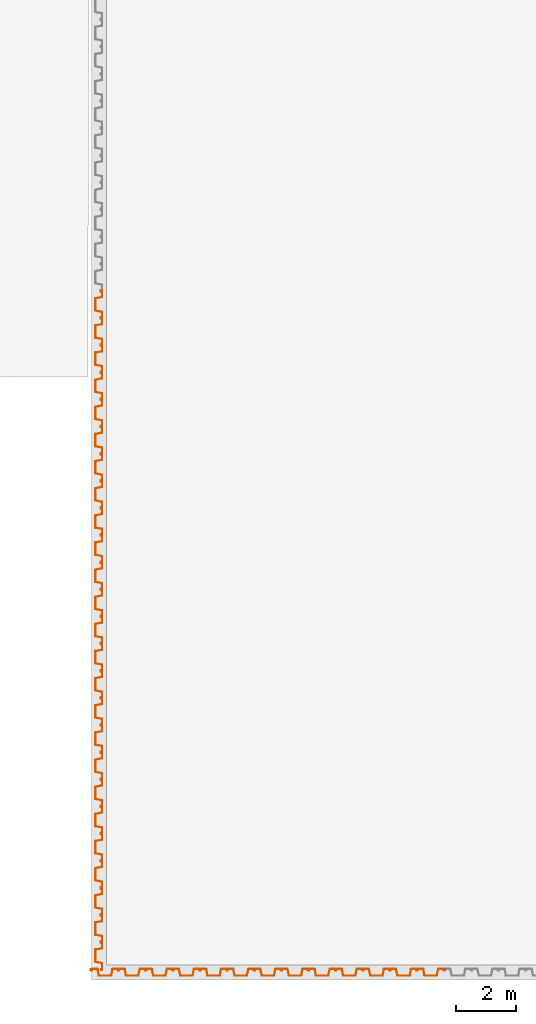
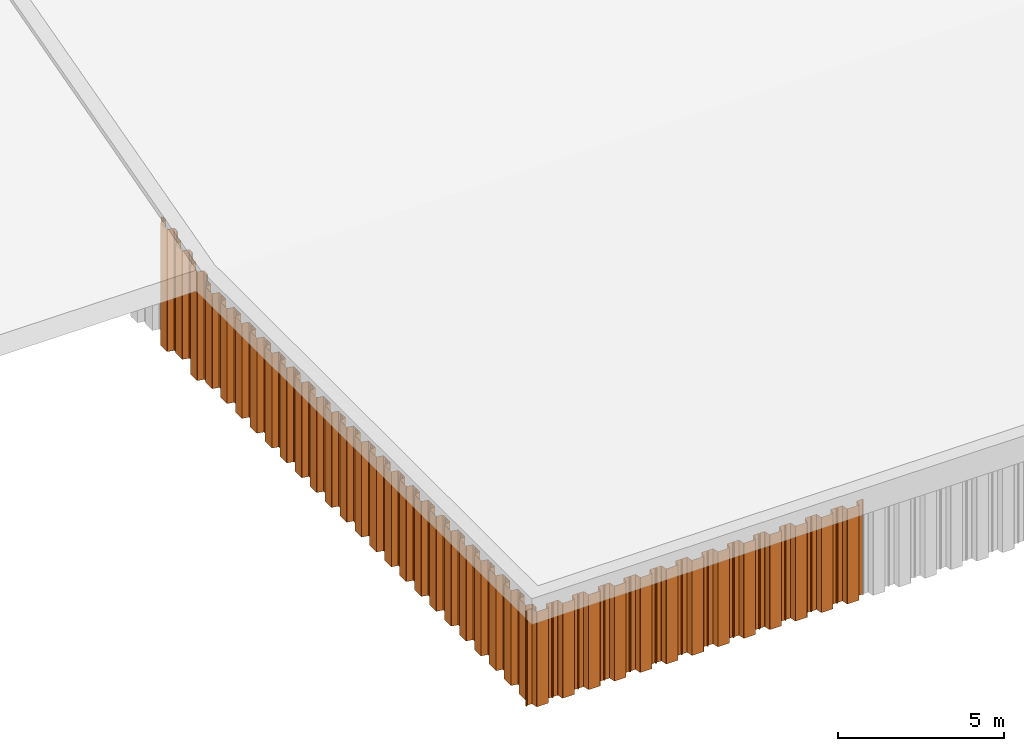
# One storey, part 4 of 32: 38 proxies.
"""IFC2X3 building model written with IfcOpenShell, lengths in millimetres."""

from ifc_helpers import new_model, entity, si_unit, converted_unit, derived_unit, direction, frame, frame_2d, origin, place, context, subcontext, project, spatial, polyline, circle_curve, parameter, trimmed, segment, composite_curve, outline, extrude, source, transform, mapped, type_object, type_shapes, element, save


model = new_model("IFC2X3")

# Units and contexts
model_context = context("Model", 3, precision=0.01, world=origin(), true_north=direction((6.12303176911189e-17, 1.0)))
body_context = subcontext(model_context, "Body", "Model", "MODEL_VIEW")
ifc_project = project(units=[si_unit("LENGTHUNIT", "METRE", prefix="MILLI"), si_unit("AREAUNIT", "SQUARE_METRE"), si_unit("VOLUMEUNIT", "CUBIC_METRE"), converted_unit("PLANEANGLEUNIT", "DEGREE", entity("IfcRatioMeasure", 0.0174532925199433), si_unit("PLANEANGLEUNIT", "RADIAN"), dimensions=[0, 0, 0, 0, 0, 0, 0]), si_unit("MASSUNIT", "GRAM", prefix="KILO"), derived_unit("MASSDENSITYUNIT", [(si_unit("MASSUNIT", "GRAM", prefix="KILO"), 1), (si_unit("LENGTHUNIT", "METRE"), -3)]), si_unit("TIMEUNIT", "SECOND"), si_unit("FREQUENCYUNIT", "HERTZ"), si_unit("THERMODYNAMICTEMPERATUREUNIT", "DEGREE_CELSIUS"), derived_unit("THERMALTRANSMITTANCEUNIT", [(si_unit("MASSUNIT", "GRAM", prefix="KILO"), 1), (si_unit("THERMODYNAMICTEMPERATUREUNIT", "KELVIN"), -1), (si_unit("TIMEUNIT", "SECOND"), -3)]), derived_unit("VOLUMETRICFLOWRATEUNIT", [(si_unit("LENGTHUNIT", "METRE"), 3), (si_unit("TIMEUNIT", "SECOND"), -1)]), si_unit("ELECTRICCURRENTUNIT", "AMPERE"), si_unit("ELECTRICVOLTAGEUNIT", "VOLT"), si_unit("POWERUNIT", "WATT"), si_unit("FORCEUNIT", "NEWTON", prefix="KILO"), si_unit("ILLUMINANCEUNIT", "LUX"), si_unit("LUMINOUSFLUXUNIT", "LUMEN"), si_unit("LUMINOUSINTENSITYUNIT", "CANDELA"), derived_unit("USERDEFINED", [(si_unit("MASSUNIT", "GRAM", prefix="KILO"), -1), (si_unit("LENGTHUNIT", "METRE"), -2), (si_unit("TIMEUNIT", "SECOND"), 3), (si_unit("LUMINOUSFLUXUNIT", "LUMEN"), 1)]), derived_unit("LINEARVELOCITYUNIT", [(si_unit("LENGTHUNIT", "METRE"), 1), (si_unit("TIMEUNIT", "SECOND"), -1)]), si_unit("PRESSUREUNIT", "PASCAL"), derived_unit("USERDEFINED", [(si_unit("LENGTHUNIT", "METRE"), -2), (si_unit("MASSUNIT", "GRAM", prefix="KILO"), 1), (si_unit("TIMEUNIT", "SECOND"), -2)])], contexts=[model_context])

# Site, building, storey
site_placement = place(None, origin())
site = spatial("IfcSite", under=ifc_project, at=site_placement, Name="Default", CompositionType="ELEMENT")
building_placement = place(site_placement, origin())
building = spatial("IfcBuilding", under=site, at=building_placement, CompositionType="ELEMENT")
storey_placement = place(building_placement, origin())
storey = spatial("IfcBuildingStorey", under=building, at=storey_placement, Name="矢板", CompositionType="ELEMENT", Elevation=0.0)

# Proxies
building_element_proxy_type_1 = type_object("IfcBuildingElementProxyType", Name="鋼矢板10H型", PredefinedType="NOTDEFINED")
shared_shape_1 = source(origin(), body_context, "Body", "SweptSolid", [
    extrude(outline(composite_curve([segment(trimmed(circle_curve(frame_2d((85.3662976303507, 306.644432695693), x_axis=(0.422618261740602, 0.906307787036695)), 13.885714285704), [parameter(24.9999999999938)], [parameter(90.0000000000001)], True, "PARAMETER"), True, "CONTINUOUS"), segment(polyline([(72.7815666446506, 312.512789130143), (9.8129512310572, 177.476157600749)]), True, "CONTINUOUS"), segment(trimmed(circle_curve(frame_2d((29.3891994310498, 168.347603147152), x_axis=(0.422618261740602, 0.906307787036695)), 21.6), [parameter(90.0000000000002)], [parameter(168.69006752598)], True, "PARAMETER"), True, "CONTINUOUS"), segment(polyline([(16.598697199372, 150.941769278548), (175.329723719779, 34.2998683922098)]), True, "CONTINUOUS"), segment(trimmed(circle_curve(frame_2d((168.93447260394, 25.596951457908), x_axis=(0.422618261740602, 0.906307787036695)), 10.7999999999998), [parameter(270.0)], [parameter(348.690067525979)], True, "PARAMETER"), False, "CONTINUOUS"), segment(polyline([(178.722596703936, 21.0326742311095), (18.2974003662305, -323.000269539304)]), True, "CONTINUOUS"), segment(trimmed(circle_curve(frame_2d((8.50927626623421, -318.435992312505), x_axis=(0.422618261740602, 0.906307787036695)), 10.8), [parameter(191.30993247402)], [parameter(269.999999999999)], True, "PARAMETER"), False, "CONTINUOUS"), segment(polyline([(5.95324328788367, -328.929166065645), (-185.429973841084, -282.310113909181)]), True, "CONTINUOUS"), segment(trimmed(circle_curve(frame_2d((-190.542039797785, -303.296461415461), x_axis=(0.422618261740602, 0.906307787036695)), 21.6000000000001), [parameter(11.3099324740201)], [parameter(90.0000000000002)], True, "PARAMETER"), True, "CONTINUOUS"), segment(polyline([(-210.118287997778, -294.167906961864), (-290.330886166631, -466.184378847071)]), True, "CONTINUOUS"), segment(trimmed(circle_curve(frame_2d((-270.754637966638, -475.312933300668), x_axis=(0.422618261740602, 0.906307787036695)), 21.6), [parameter(90.0000000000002)], [parameter(269.999999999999)], True, "PARAMETER"), True, "CONTINUOUS"), segment(polyline([(-251.178389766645, -484.441487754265), (-249.065298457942, -479.909948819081)]), True, "CONTINUOUS"), segment(polyline([(-249.065298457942, -479.909948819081), (-258.853422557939, -475.345671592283)]), True, "CONTINUOUS"), segment(polyline([(-258.853422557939, -475.345671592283), (-260.966513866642, -479.877210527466)]), True, "CONTINUOUS"), segment(trimmed(circle_curve(frame_2d((-270.754637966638, -475.312933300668), x_axis=(0.422618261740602, 0.906307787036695)), 10.8), [parameter(90.0000000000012)], [parameter(270.0)], True, "PARAMETER"), False, "CONTINUOUS"), segment(polyline([(-280.542762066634, -470.748656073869), (-200.330163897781, -298.732184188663)]), True, "CONTINUOUS"), segment(trimmed(circle_curve(frame_2d((-190.542039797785, -303.296461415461), x_axis=(0.422618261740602, 0.906307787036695)), 10.8), [parameter(11.3099324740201)], [parameter(89.9999999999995)], True, "PARAMETER"), False, "CONTINUOUS"), segment(polyline([(-187.986006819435, -292.803287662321), (3.39721030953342, -339.422339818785)]), True, "CONTINUOUS"), segment(trimmed(circle_curve(frame_2d((8.50927626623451, -318.435992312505), x_axis=(0.422618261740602, 0.906307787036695)), 21.6), [parameter(191.30993247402)], [parameter(270.0)], True, "PARAMETER"), True, "CONTINUOUS"), segment(polyline([(28.0855244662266, -327.564546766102), (188.510720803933, 16.4683970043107)]), True, "CONTINUOUS"), segment(trimmed(circle_curve(frame_2d((168.93447260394, 25.5969514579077), x_axis=(0.422618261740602, 0.906307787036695)), 21.6), [parameter(270.0)], [parameter(348.69006752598)], True, "PARAMETER"), True, "CONTINUOUS"), segment(polyline([(181.724974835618, 43.0027853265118), (22.9939483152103, 159.644686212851)]), True, "CONTINUOUS"), segment(trimmed(circle_curve(frame_2d((29.3891994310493, 168.347603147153), x_axis=(0.422618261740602, 0.906307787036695)), 10.7999999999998), [parameter(89.9999999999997)], [parameter(168.690067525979)], True, "PARAMETER"), False, "CONTINUOUS"), segment(polyline([(19.6010753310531, 172.911880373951), (82.5696907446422, 307.948511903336)]), True, "CONTINUOUS"), segment(trimmed(circle_curve(frame_2d((85.3662976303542, 306.64443269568), x_axis=(0.422618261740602, 0.906307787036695)), 3.08571428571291), [parameter(25.0000000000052)], [parameter(90.0000000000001)], True, "PARAMETER"), False, "CONTINUOUS"), segment(polyline([(85.3662976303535, 309.730146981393), (122.220231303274, 309.730146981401)]), True, "CONTINUOUS"), segment(trimmed(circle_curve(frame_2d((122.220231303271, 323.615861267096), x_axis=(0.422618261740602, 0.906307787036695)), 13.8857142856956), [parameter(205.000000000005)], [parameter(270.0)], True, "PARAMETER"), True, "CONTINUOUS"), segment(polyline([(134.804962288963, 317.747504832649), (141.079261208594, 331.202782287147)]), True, "CONTINUOUS"), segment(trimmed(circle_curve(frame_2d((121.503013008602, 340.331336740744), x_axis=(0.422618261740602, 0.906307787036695)), 21.6), [parameter(270.0)], [parameter(90.0000000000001)], True, "PARAMETER"), True, "CONTINUOUS"), segment(polyline([(101.926764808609, 349.459891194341), (99.8136734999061, 344.928352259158)]), True, "CONTINUOUS"), segment(polyline([(99.8136734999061, 344.928352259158), (109.601797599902, 340.364075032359)]), True, "CONTINUOUS"), segment(polyline([(109.601797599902, 340.364075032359), (111.714888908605, 344.895613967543)]), True, "CONTINUOUS"), segment(trimmed(circle_curve(frame_2d((121.503013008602, 340.331336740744), x_axis=(0.422618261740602, 0.906307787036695)), 10.8), [parameter(270.0)], [parameter(89.9999999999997)], True, "PARAMETER"), False, "CONTINUOUS"), segment(polyline([(131.291137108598, 335.767059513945), (125.01683818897, 322.311782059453)]), True, "CONTINUOUS"), segment(trimmed(circle_curve(frame_2d((122.220231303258, 323.615861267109), x_axis=(0.422618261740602, 0.906307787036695)), 3.08571428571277), [parameter(204.999999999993)], [parameter(270.0)], True, "PARAMETER"), False, "CONTINUOUS"), segment(polyline([(122.220231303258, 320.530146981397), (85.3662976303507, 320.530146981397)]), True, "CONTINUOUS")], self_intersect=False)), frame((95.205667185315, -48.8888888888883, -3500.0), z_axis=(0.0, 0.0, -1.0), x_axis=(0.4226182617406, 0.906307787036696, 0.0)), (0.0, 0.0, -1.0), 3500.0),
])
type_shapes(building_element_proxy_type_1, [shared_shape_1])
for number, where, z_axis, x_axis in (
    (1, (-128208.0, -33049.0, 5850.0), (0.0, 0.0, 1.0), (0.0, 1.0, 0.0)),
    (2, (-128208.0, -33949.0, 5850.0), (0.0, 0.0, 1.0), (0.0, 1.0, 0.0)),
    (3, (-128208.0, -34849.0, 5850.0), (0.0, 0.0, 1.0), (0.0, 1.0, 0.0)),
    (4, (-128208.0, -35749.0, 5850.0), (0.0, 0.0, 1.0), (0.0, 1.0, 0.0)),
    (5, (-128208.0, -36649.0, 5850.0), (0.0, 0.0, 1.0), (0.0, 1.0, 0.0)),
    (6, (-128208.0, -37549.0, 5850.0), (0.0, 0.0, 1.0), (0.0, 1.0, 0.0)),
    (7, (-128208.0, -38449.0, 5850.0), (0.0, 0.0, 1.0), (0.0, 1.0, 0.0)),
    (8, (-128208.0, -39349.0, 5850.0), (0.0, 0.0, 1.0), (0.0, 1.0, 0.0)),
    (9, (-128208.0, -40249.0, 5850.0), (0.0, 0.0, 1.0), (0.0, 1.0, 0.0)),
    (10, (-128208.0, -41149.0, 5850.0), (0.0, 0.0, 1.0), (0.0, 1.0, 0.0)),
    (11, (-128208.0, -42049.0, 5850.0), (0.0, 0.0, 1.0), (0.0, 1.0, 0.0)),
    (12, (-128208.0, -42949.0, 5850.0), (0.0, 0.0, 1.0), (0.0, 1.0, 0.0)),
    (13, (-128208.0, -43849.0, 5850.0), (0.0, 0.0, 1.0), (0.0, 1.0, 0.0)),
    (14, (-128208.0, -44749.0, 5850.0), (0.0, 0.0, 1.0), (0.0, 1.0, 0.0)),
    (15, (-128208.0, -45649.0, 5850.0), (0.0, 0.0, 1.0), (0.0, 1.0, 0.0)),
    (16, (-128208.0, -46549.0, 5850.0), (0.0, 0.0, 1.0), (0.0, 1.0, 0.0)),
    (17, (-128208.0, -47449.0, 5850.0), (0.0, 0.0, 1.0), (0.0, 1.0, 0.0)),
    (18, (-128208.0, -48349.0, 5850.0), (0.0, 0.0, 1.0), (0.0, 1.0, 0.0)),
    (19, (-128208.0, -49249.0, 5850.0), (0.0, 0.0, 1.0), (0.0, 1.0, 0.0)),
    (20, (-128208.0, -50149.0, 5850.0), (0.0, 0.0, 1.0), (0.0, 1.0, 0.0)),
    (21, (-128208.0, -51049.0, 5850.0), (0.0, 0.0, 1.0), (0.0, 1.0, 0.0)),
    (22, (-128208.0, -51949.0, 5850.0), (0.0, 0.0, 1.0), (0.0, 1.0, 0.0)),
    (23, (-117197.500000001, -52500.0, 5850.0), (0.0, 0.0, 1.0), (-1.0, 0.0, 0.0)),
    (24, (-118097.500000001, -52500.0, 5850.0), (0.0, 0.0, 1.0), (-1.0, 0.0, 0.0)),
    (25, (-118997.500000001, -52500.0, 5850.0), (0.0, 0.0, 1.0), (-1.0, 0.0, 0.0)),
    (26, (-119897.500000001, -52500.0, 5850.0), (0.0, 0.0, 1.0), (-1.0, 0.0, 0.0)),
    (27, (-120797.500000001, -52500.0, 5850.0), (0.0, 0.0, 1.0), (-1.0, 0.0, 0.0)),
    (28, (-121697.500000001, -52500.0, 5850.0), (0.0, 0.0, 1.0), (-1.0, 0.0, 0.0)),
    (29, (-122597.500000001, -52500.0, 5850.0), (0.0, 0.0, 1.0), (-1.0, 0.0, 0.0)),
    (30, (-123497.500000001, -52500.0, 5850.0), (0.0, 0.0, 1.0), (-1.0, 0.0, 0.0)),
    (31, (-124397.500000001, -52500.0, 5850.0), (0.0, 0.0, 1.0), (-1.0, 0.0, 0.0)),
    (32, (-125297.500000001, -52500.0, 5850.0), (0.0, 0.0, 1.0), (-1.0, 0.0, 0.0)),
    (33, (-126197.500000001, -52500.0, 5850.0), (0.0, 0.0, 1.0), (-1.0, 0.0, 0.0)),
    (34, (-127097.500000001, -52500.0, 5850.0), (0.0, 0.0, 1.0), (-1.0, 0.0, 0.0)),
    (35, (-127997.500000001, -52500.0, 5850.0), (0.0, 0.0, 1.0), (-1.0, 0.0, 0.0)),
):
    element("IfcBuildingElementProxy", number, at=place(storey_placement, frame(where, z_axis=z_axis, x_axis=x_axis)), inside=storey, type_object=building_element_proxy_type_1, Name="鋼矢板10H型:鋼矢板10H型", ObjectType="鋼矢板10H型:鋼矢板10H型", context=body_context, shape_type="MappedRepresentation", body=[
        mapped(shared_shape_1, transform((0.0, 0.0, 0.0), scale=1.0)),
    ])
building_element_proxy_type_2 = type_object("IfcBuildingElementProxyType", Name="鋼矢板10H型", PredefinedType="NOTDEFINED")
shared_shape_2 = source(origin(), body_context, "Body", "SweptSolid", [
    extrude(outline(composite_curve([segment(trimmed(circle_curve(frame_2d((85.3662976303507, 306.644432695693), x_axis=(0.422618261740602, 0.906307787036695)), 13.885714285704), [parameter(24.9999999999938)], [parameter(90.0000000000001)], True, "PARAMETER"), True, "CONTINUOUS"), segment(polyline([(72.7815666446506, 312.512789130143), (9.8129512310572, 177.476157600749)]), True, "CONTINUOUS"), segment(trimmed(circle_curve(frame_2d((29.3891994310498, 168.347603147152), x_axis=(0.422618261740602, 0.906307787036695)), 21.6), [parameter(90.0000000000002)], [parameter(168.69006752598)], True, "PARAMETER"), True, "CONTINUOUS"), segment(polyline([(16.598697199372, 150.941769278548), (175.329723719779, 34.2998683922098)]), True, "CONTINUOUS"), segment(trimmed(circle_curve(frame_2d((168.93447260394, 25.596951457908), x_axis=(0.422618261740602, 0.906307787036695)), 10.7999999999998), [parameter(270.0)], [parameter(348.690067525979)], True, "PARAMETER"), False, "CONTINUOUS"), segment(polyline([(178.722596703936, 21.0326742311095), (18.2974003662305, -323.000269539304)]), True, "CONTINUOUS"), segment(trimmed(circle_curve(frame_2d((8.50927626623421, -318.435992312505), x_axis=(0.422618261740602, 0.906307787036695)), 10.8), [parameter(191.30993247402)], [parameter(269.999999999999)], True, "PARAMETER"), False, "CONTINUOUS"), segment(polyline([(5.95324328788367, -328.929166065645), (-185.429973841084, -282.310113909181)]), True, "CONTINUOUS"), segment(trimmed(circle_curve(frame_2d((-190.542039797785, -303.296461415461), x_axis=(0.422618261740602, 0.906307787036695)), 21.6000000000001), [parameter(11.3099324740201)], [parameter(90.0000000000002)], True, "PARAMETER"), True, "CONTINUOUS"), segment(polyline([(-210.118287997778, -294.167906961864), (-290.330886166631, -466.184378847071)]), True, "CONTINUOUS"), segment(trimmed(circle_curve(frame_2d((-270.754637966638, -475.312933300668), x_axis=(0.422618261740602, 0.906307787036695)), 21.6), [parameter(90.0000000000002)], [parameter(269.999999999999)], True, "PARAMETER"), True, "CONTINUOUS"), segment(polyline([(-251.178389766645, -484.441487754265), (-249.065298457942, -479.909948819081)]), True, "CONTINUOUS"), segment(polyline([(-249.065298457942, -479.909948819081), (-258.853422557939, -475.345671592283)]), True, "CONTINUOUS"), segment(polyline([(-258.853422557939, -475.345671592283), (-260.966513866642, -479.877210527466)]), True, "CONTINUOUS"), segment(trimmed(circle_curve(frame_2d((-270.754637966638, -475.312933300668), x_axis=(0.422618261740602, 0.906307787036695)), 10.8), [parameter(90.0000000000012)], [parameter(270.0)], True, "PARAMETER"), False, "CONTINUOUS"), segment(polyline([(-280.542762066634, -470.748656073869), (-200.330163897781, -298.732184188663)]), True, "CONTINUOUS"), segment(trimmed(circle_curve(frame_2d((-190.542039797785, -303.296461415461), x_axis=(0.422618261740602, 0.906307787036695)), 10.8), [parameter(11.3099324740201)], [parameter(89.9999999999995)], True, "PARAMETER"), False, "CONTINUOUS"), segment(polyline([(-187.986006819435, -292.803287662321), (3.39721030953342, -339.422339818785)]), True, "CONTINUOUS"), segment(trimmed(circle_curve(frame_2d((8.50927626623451, -318.435992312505), x_axis=(0.422618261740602, 0.906307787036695)), 21.6), [parameter(191.30993247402)], [parameter(270.0)], True, "PARAMETER"), True, "CONTINUOUS"), segment(polyline([(28.0855244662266, -327.564546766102), (188.510720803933, 16.4683970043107)]), True, "CONTINUOUS"), segment(trimmed(circle_curve(frame_2d((168.93447260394, 25.5969514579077), x_axis=(0.422618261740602, 0.906307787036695)), 21.6), [parameter(270.0)], [parameter(348.69006752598)], True, "PARAMETER"), True, "CONTINUOUS"), segment(polyline([(181.724974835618, 43.0027853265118), (22.9939483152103, 159.644686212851)]), True, "CONTINUOUS"), segment(trimmed(circle_curve(frame_2d((29.3891994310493, 168.347603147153), x_axis=(0.422618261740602, 0.906307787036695)), 10.7999999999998), [parameter(89.9999999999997)], [parameter(168.690067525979)], True, "PARAMETER"), False, "CONTINUOUS"), segment(polyline([(19.6010753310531, 172.911880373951), (82.5696907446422, 307.948511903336)]), True, "CONTINUOUS"), segment(trimmed(circle_curve(frame_2d((85.3662976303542, 306.64443269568), x_axis=(0.422618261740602, 0.906307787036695)), 3.08571428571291), [parameter(25.0000000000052)], [parameter(90.0000000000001)], True, "PARAMETER"), False, "CONTINUOUS"), segment(polyline([(85.3662976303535, 309.730146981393), (122.220231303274, 309.730146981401)]), True, "CONTINUOUS"), segment(trimmed(circle_curve(frame_2d((122.220231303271, 323.615861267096), x_axis=(0.422618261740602, 0.906307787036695)), 13.8857142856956), [parameter(205.000000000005)], [parameter(270.0)], True, "PARAMETER"), True, "CONTINUOUS"), segment(polyline([(134.804962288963, 317.747504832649), (141.079261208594, 331.202782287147)]), True, "CONTINUOUS"), segment(trimmed(circle_curve(frame_2d((121.503013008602, 340.331336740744), x_axis=(0.422618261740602, 0.906307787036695)), 21.6), [parameter(270.0)], [parameter(90.0000000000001)], True, "PARAMETER"), True, "CONTINUOUS"), segment(polyline([(101.926764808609, 349.459891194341), (99.8136734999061, 344.928352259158)]), True, "CONTINUOUS"), segment(polyline([(99.8136734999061, 344.928352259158), (109.601797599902, 340.364075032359)]), True, "CONTINUOUS"), segment(polyline([(109.601797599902, 340.364075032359), (111.714888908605, 344.895613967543)]), True, "CONTINUOUS"), segment(trimmed(circle_curve(frame_2d((121.503013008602, 340.331336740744), x_axis=(0.422618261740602, 0.906307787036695)), 10.8), [parameter(270.0)], [parameter(89.9999999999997)], True, "PARAMETER"), False, "CONTINUOUS"), segment(polyline([(131.291137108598, 335.767059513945), (125.01683818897, 322.311782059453)]), True, "CONTINUOUS"), segment(trimmed(circle_curve(frame_2d((122.220231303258, 323.615861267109), x_axis=(0.422618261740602, 0.906307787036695)), 3.08571428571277), [parameter(204.999999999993)], [parameter(270.0)], True, "PARAMETER"), False, "CONTINUOUS"), segment(polyline([(122.220231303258, 320.530146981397), (85.3662976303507, 320.530146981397)]), True, "CONTINUOUS")], self_intersect=False)), frame((95.205667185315, -48.8888888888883, -4500.0), z_axis=(0.0, 0.0, -1.0), x_axis=(0.4226182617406, 0.906307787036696, 0.0)), (0.0, 0.0, -1.0), 4500.0),
])
type_shapes(building_element_proxy_type_2, [shared_shape_2])
proxy_placement = place(storey_placement, frame((-128208.0, -30349.0, 6575.0), z_axis=(0.0, 0.0, 1.0), x_axis=(0.0, 1.0, 0.0)))
element("IfcBuildingElementProxy", 36, at=proxy_placement, inside=storey, type_object=building_element_proxy_type_2, Name="鋼矢板10H型:鋼矢板10H型", ObjectType="鋼矢板10H型:鋼矢板10H型", context=body_context, shape_type="MappedRepresentation", body=[
    mapped(shared_shape_2, transform((0.0, 0.0, 0.0), scale=1.0)),
])
building_element_proxy_type_3 = type_object("IfcBuildingElementProxyType", Name="鋼矢板10H型", PredefinedType="NOTDEFINED")
shared_shape_3 = source(origin(), body_context, "Body", "SweptSolid", [
    extrude(outline(composite_curve([segment(trimmed(circle_curve(frame_2d((85.3662976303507, 306.644432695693), x_axis=(0.422618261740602, 0.906307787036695)), 13.885714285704), [parameter(24.9999999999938)], [parameter(90.0000000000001)], True, "PARAMETER"), True, "CONTINUOUS"), segment(polyline([(72.7815666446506, 312.512789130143), (9.8129512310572, 177.476157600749)]), True, "CONTINUOUS"), segment(trimmed(circle_curve(frame_2d((29.3891994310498, 168.347603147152), x_axis=(0.422618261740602, 0.906307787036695)), 21.6), [parameter(90.0000000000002)], [parameter(168.69006752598)], True, "PARAMETER"), True, "CONTINUOUS"), segment(polyline([(16.598697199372, 150.941769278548), (175.329723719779, 34.2998683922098)]), True, "CONTINUOUS"), segment(trimmed(circle_curve(frame_2d((168.93447260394, 25.596951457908), x_axis=(0.422618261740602, 0.906307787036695)), 10.7999999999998), [parameter(270.0)], [parameter(348.690067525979)], True, "PARAMETER"), False, "CONTINUOUS"), segment(polyline([(178.722596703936, 21.0326742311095), (18.2974003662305, -323.000269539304)]), True, "CONTINUOUS"), segment(trimmed(circle_curve(frame_2d((8.50927626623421, -318.435992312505), x_axis=(0.422618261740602, 0.906307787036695)), 10.8), [parameter(191.30993247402)], [parameter(269.999999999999)], True, "PARAMETER"), False, "CONTINUOUS"), segment(polyline([(5.95324328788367, -328.929166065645), (-185.429973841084, -282.310113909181)]), True, "CONTINUOUS"), segment(trimmed(circle_curve(frame_2d((-190.542039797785, -303.296461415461), x_axis=(0.422618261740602, 0.906307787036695)), 21.6000000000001), [parameter(11.3099324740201)], [parameter(90.0000000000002)], True, "PARAMETER"), True, "CONTINUOUS"), segment(polyline([(-210.118287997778, -294.167906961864), (-290.330886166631, -466.184378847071)]), True, "CONTINUOUS"), segment(trimmed(circle_curve(frame_2d((-270.754637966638, -475.312933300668), x_axis=(0.422618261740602, 0.906307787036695)), 21.6), [parameter(90.0000000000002)], [parameter(269.999999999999)], True, "PARAMETER"), True, "CONTINUOUS"), segment(polyline([(-251.178389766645, -484.441487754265), (-249.065298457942, -479.909948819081)]), True, "CONTINUOUS"), segment(polyline([(-249.065298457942, -479.909948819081), (-258.853422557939, -475.345671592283)]), True, "CONTINUOUS"), segment(polyline([(-258.853422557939, -475.345671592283), (-260.966513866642, -479.877210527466)]), True, "CONTINUOUS"), segment(trimmed(circle_curve(frame_2d((-270.754637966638, -475.312933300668), x_axis=(0.422618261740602, 0.906307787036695)), 10.8), [parameter(90.0000000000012)], [parameter(270.0)], True, "PARAMETER"), False, "CONTINUOUS"), segment(polyline([(-280.542762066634, -470.748656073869), (-200.330163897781, -298.732184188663)]), True, "CONTINUOUS"), segment(trimmed(circle_curve(frame_2d((-190.542039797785, -303.296461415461), x_axis=(0.422618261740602, 0.906307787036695)), 10.8), [parameter(11.3099324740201)], [parameter(89.9999999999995)], True, "PARAMETER"), False, "CONTINUOUS"), segment(polyline([(-187.986006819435, -292.803287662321), (3.39721030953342, -339.422339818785)]), True, "CONTINUOUS"), segment(trimmed(circle_curve(frame_2d((8.50927626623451, -318.435992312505), x_axis=(0.422618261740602, 0.906307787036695)), 21.6), [parameter(191.30993247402)], [parameter(270.0)], True, "PARAMETER"), True, "CONTINUOUS"), segment(polyline([(28.0855244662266, -327.564546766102), (188.510720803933, 16.4683970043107)]), True, "CONTINUOUS"), segment(trimmed(circle_curve(frame_2d((168.93447260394, 25.5969514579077), x_axis=(0.422618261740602, 0.906307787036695)), 21.6), [parameter(270.0)], [parameter(348.69006752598)], True, "PARAMETER"), True, "CONTINUOUS"), segment(polyline([(181.724974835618, 43.0027853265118), (22.9939483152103, 159.644686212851)]), True, "CONTINUOUS"), segment(trimmed(circle_curve(frame_2d((29.3891994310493, 168.347603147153), x_axis=(0.422618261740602, 0.906307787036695)), 10.7999999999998), [parameter(89.9999999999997)], [parameter(168.690067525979)], True, "PARAMETER"), False, "CONTINUOUS"), segment(polyline([(19.6010753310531, 172.911880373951), (82.5696907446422, 307.948511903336)]), True, "CONTINUOUS"), segment(trimmed(circle_curve(frame_2d((85.3662976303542, 306.64443269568), x_axis=(0.422618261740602, 0.906307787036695)), 3.08571428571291), [parameter(25.0000000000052)], [parameter(90.0000000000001)], True, "PARAMETER"), False, "CONTINUOUS"), segment(polyline([(85.3662976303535, 309.730146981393), (122.220231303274, 309.730146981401)]), True, "CONTINUOUS"), segment(trimmed(circle_curve(frame_2d((122.220231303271, 323.615861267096), x_axis=(0.422618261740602, 0.906307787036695)), 13.8857142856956), [parameter(205.000000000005)], [parameter(270.0)], True, "PARAMETER"), True, "CONTINUOUS"), segment(polyline([(134.804962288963, 317.747504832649), (141.079261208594, 331.202782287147)]), True, "CONTINUOUS"), segment(trimmed(circle_curve(frame_2d((121.503013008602, 340.331336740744), x_axis=(0.422618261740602, 0.906307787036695)), 21.6), [parameter(270.0)], [parameter(90.0000000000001)], True, "PARAMETER"), True, "CONTINUOUS"), segment(polyline([(101.926764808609, 349.459891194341), (99.8136734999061, 344.928352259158)]), True, "CONTINUOUS"), segment(polyline([(99.8136734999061, 344.928352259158), (109.601797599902, 340.364075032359)]), True, "CONTINUOUS"), segment(polyline([(109.601797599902, 340.364075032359), (111.714888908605, 344.895613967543)]), True, "CONTINUOUS"), segment(trimmed(circle_curve(frame_2d((121.503013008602, 340.331336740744), x_axis=(0.422618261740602, 0.906307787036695)), 10.8), [parameter(270.0)], [parameter(89.9999999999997)], True, "PARAMETER"), False, "CONTINUOUS"), segment(polyline([(131.291137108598, 335.767059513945), (125.01683818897, 322.311782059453)]), True, "CONTINUOUS"), segment(trimmed(circle_curve(frame_2d((122.220231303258, 323.615861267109), x_axis=(0.422618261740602, 0.906307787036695)), 3.08571428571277), [parameter(204.999999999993)], [parameter(270.0)], True, "PARAMETER"), False, "CONTINUOUS"), segment(polyline([(122.220231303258, 320.530146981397), (85.3662976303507, 320.530146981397)]), True, "CONTINUOUS")], self_intersect=False)), frame((95.205667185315, -48.8888888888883, -4000.0), z_axis=(0.0, 0.0, -1.0), x_axis=(0.4226182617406, 0.906307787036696, 0.0)), (0.0, 0.0, -1.0), 4000.0),
])
type_shapes(building_element_proxy_type_3, [shared_shape_3])
for number, where, z_axis, x_axis in (
    (37, (-128208.0, -31249.0, 6337.0), (0.0, 0.0, 1.0), (0.0, 1.0, 0.0)),
    (38, (-128208.0, -32149.0, 6100.0), (0.0, 0.0, 1.0), (0.0, 1.0, 0.0)),
):
    element("IfcBuildingElementProxy", number, at=place(storey_placement, frame(where, z_axis=z_axis, x_axis=x_axis)), inside=storey, type_object=building_element_proxy_type_3, Name="鋼矢板10H型:鋼矢板10H型", ObjectType="鋼矢板10H型:鋼矢板10H型", context=body_context, shape_type="MappedRepresentation", body=[
        mapped(shared_shape_3, transform((0.0, 0.0, 0.0), scale=1.0)),
    ])

save(model, "model.ifc")
